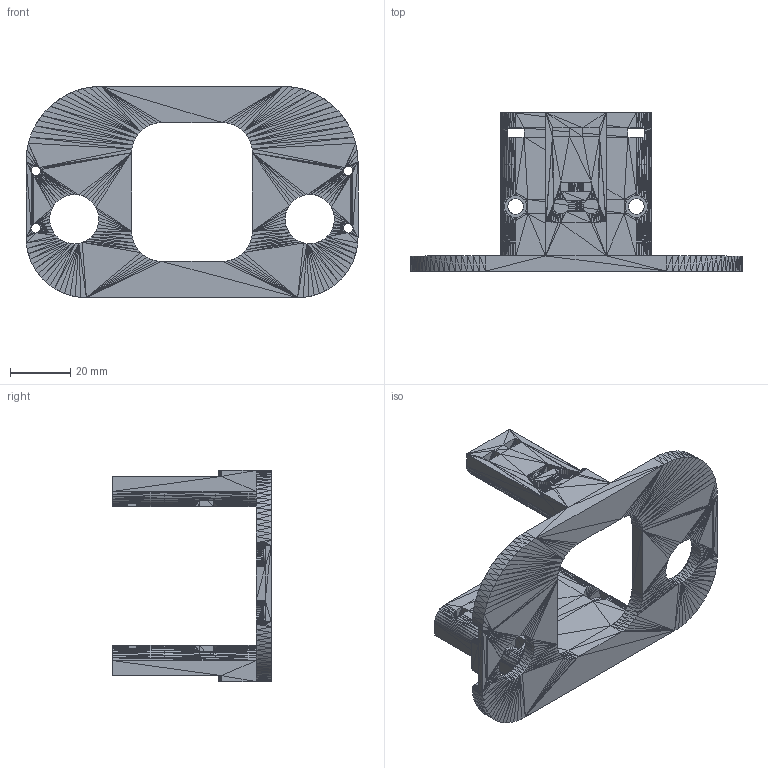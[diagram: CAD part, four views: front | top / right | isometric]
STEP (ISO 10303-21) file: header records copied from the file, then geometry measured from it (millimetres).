
FILE_DESCRIPTION(('CATIA V5 STEP Exchange'),'2;1');
FILE_NAME('D:\A\_RoadBalance_\Spot_Model\model_files\Step_files\I_shoulder_cls_modi.stp','2021-01-22T12:43:41+00:00',('none'),('none'),'CATIA Version 5 Release 20 GA (IN-10)','CATIA V5 STEP AP203','none');
FILE_SCHEMA(('CONFIG_CONTROL_DESIGN'));
Products named in the file (1): Part1.3
Bounding box: 110 x 52.5 x 70 mm (x, y, z)
Volume: 55791.9 mm3; surface area: 23596.6 mm2
Topology: 1 solids, 1 shells, 4700 faces, 7274 edges, 2542 vertices
Faces by surface type: plane 4668, cylinder 32
Entity records: 92607 total; most frequent: DIRECTION 16250, ORIENTED_EDGE 14548, CARTESIAN_POINT 14305, EDGE_CURVE 7274, VECTOR 6734, LINE 6734, AXIS2_PLACEMENT_3D 5029, EDGE_LOOP 4708
